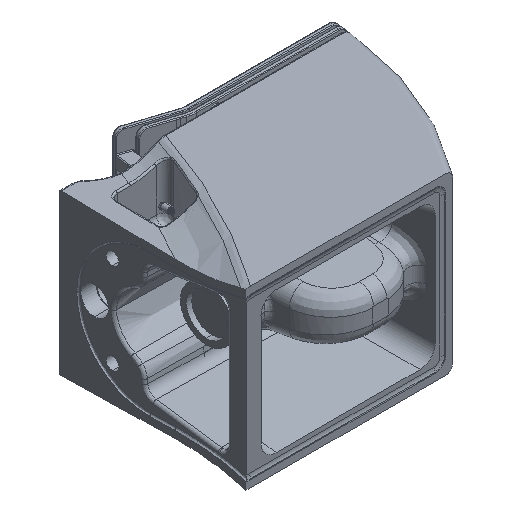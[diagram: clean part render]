
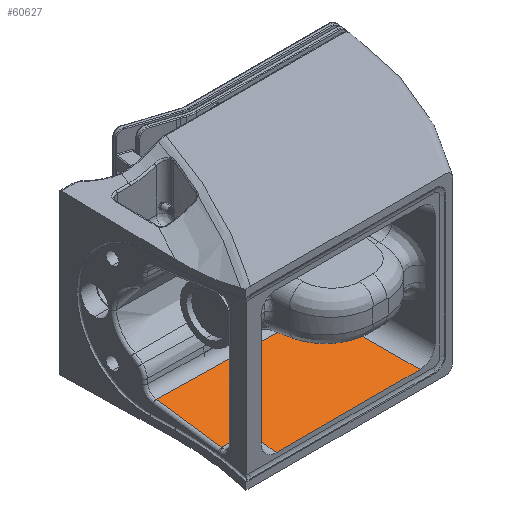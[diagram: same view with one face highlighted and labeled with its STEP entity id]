
A CAD part, isometric view. The second image highlights one B-rep face of the part: STEP entity #60627.
In plain terms, the highlighted planar face has unit normal (0, -0.139, 0.99).
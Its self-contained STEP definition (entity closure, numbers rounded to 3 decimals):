
#120 = CARTESIAN_POINT ( 'NONE',  ( 620.642, -152.231, -112.574 ) ) ;
#6839 = LINE ( 'NONE', #86906, #109560 ) ;
#7144 = VERTEX_POINT ( 'NONE', #148463 ) ;
#9386 = ORIENTED_EDGE ( 'NONE', *, *, #90488, .T. ) ;
#10323 = CARTESIAN_POINT ( 'NONE',  ( 620.642, -336.178, -138.426 ) ) ;
#14017 = VECTOR ( 'NONE', #121102, 1000. ) ;
#15032 = VECTOR ( 'NONE', #21444, 1000. ) ;
#21444 = DIRECTION ( 'NONE',  ( 0., -0.99, -0.139 ) ) ;
#23784 = VERTEX_POINT ( 'NONE', #127935 ) ;
#23869 = VECTOR ( 'NONE', #156094, 1000. ) ;
#25415 = CARTESIAN_POINT ( 'NONE',  ( 984.505, -336.178, -138.426 ) ) ;
#28140 = ORIENTED_EDGE ( 'NONE', *, *, #76033, .T. ) ;
#30411 = CARTESIAN_POINT ( 'NONE',  ( 984.505, -279.732, -130.493 ) ) ;
#33254 = CARTESIAN_POINT ( 'NONE',  ( 673.046, -336.178, -138.426 ) ) ;
#36667 = ORIENTED_EDGE ( 'NONE', *, *, #95807, .T. ) ;
#39402 = ORIENTED_EDGE ( 'NONE', *, *, #132555, .T. ) ;
#43842 = CARTESIAN_POINT ( 'NONE',  ( 954.853, -334.201, -138.148 ) ) ;
#47679 = VERTEX_POINT ( 'NONE', #81716 ) ;
#48198 = LINE ( 'NONE', #104167, #23869 ) ;
#49629 = VECTOR ( 'NONE', #81068, 1000. ) ;
#51809 = DIRECTION ( 'NONE',  ( 0., -0.99, -0.139 ) ) ;
#52632 = VERTEX_POINT ( 'NONE', #43842 ) ;
#53204 = VERTEX_POINT ( 'NONE', #66899 ) ;
#53800 = LINE ( 'NONE', #93861, #49629 ) ;
#60627 = ADVANCED_FACE ( 'NONE', ( #156595 ), #79069, .T. ) ;
#66899 = CARTESIAN_POINT ( 'NONE',  ( 930.052, -157.732, -113.347 ) ) ;
#76033 = EDGE_CURVE ( 'NONE', #53204, #103564, #53800, .T. ) ;
#79069 = PLANE ( 'NONE',  #94980 ) ;
#81068 = DIRECTION ( 'NONE',  ( -1., 0.018, 0.002 ) ) ;
#81716 = CARTESIAN_POINT ( 'NONE',  ( 673.046, -279.732, -130.493 ) ) ;
#83240 = DIRECTION ( 'NONE',  ( 1., 0., 0. ) ) ;
#86219 = LINE ( 'NONE', #10323, #15032 ) ;
#86906 = CARTESIAN_POINT ( 'NONE',  ( 954.853, -334.201, -138.148 ) ) ;
#88145 = EDGE_CURVE ( 'NONE', #47679, #23784, #148302, .T. ) ;
#90488 = EDGE_CURVE ( 'NONE', #52632, #53204, #6839, .T. ) ;
#93861 = CARTESIAN_POINT ( 'NONE',  ( 930.052, -157.732, -113.347 ) ) ;
#94980 = AXIS2_PLACEMENT_3D ( 'NONE', #25415, #118289, #51809 ) ;
#95807 = EDGE_CURVE ( 'NONE', #7144, #47679, #120797, .T. ) ;
#100531 = DIRECTION ( 'NONE',  ( -0.138, 0.981, 0.138 ) ) ;
#103564 = VERTEX_POINT ( 'NONE', #120 ) ;
#104167 = CARTESIAN_POINT ( 'NONE',  ( 293.763, -334.201, -138.148 ) ) ;
#106842 = VECTOR ( 'NONE', #83240, 1000. ) ;
#109560 = VECTOR ( 'NONE', #100531, 1000. ) ;
#118289 = DIRECTION ( 'NONE',  ( 0., -0.139, 0.99 ) ) ;
#120797 = LINE ( 'NONE', #30411, #106842 ) ;
#121102 = DIRECTION ( 'NONE',  ( 0., -0.99, -0.139 ) ) ;
#127935 = CARTESIAN_POINT ( 'NONE',  ( 673.046, -334.201, -138.148 ) ) ;
#132555 = EDGE_CURVE ( 'NONE', #23784, #52632, #48198, .T. ) ;
#146501 = EDGE_LOOP ( 'NONE', ( #28140, #160818, #36667, #159293, #39402, #9386 ) ) ;
#148134 = EDGE_CURVE ( 'NONE', #103564, #7144, #86219, .T. ) ;
#148302 = LINE ( 'NONE', #33254, #14017 ) ;
#148463 = CARTESIAN_POINT ( 'NONE',  ( 620.642, -279.732, -130.493 ) ) ;
#156094 = DIRECTION ( 'NONE',  ( 1., 0., 0. ) ) ;
#156595 = FACE_OUTER_BOUND ( 'NONE', #146501, .T. ) ;
#159293 = ORIENTED_EDGE ( 'NONE', *, *, #88145, .T. ) ;
#160818 = ORIENTED_EDGE ( 'NONE', *, *, #148134, .T. ) ;
